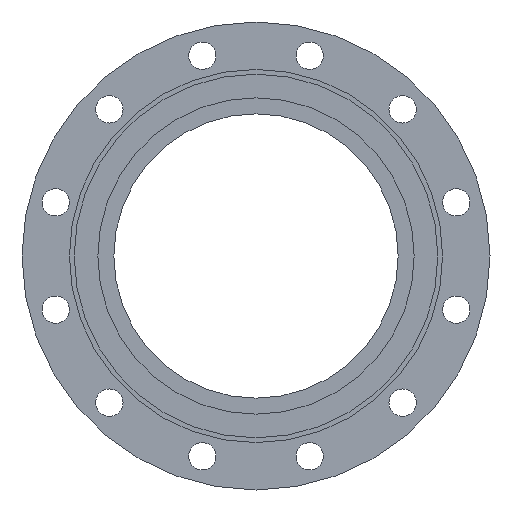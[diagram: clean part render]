
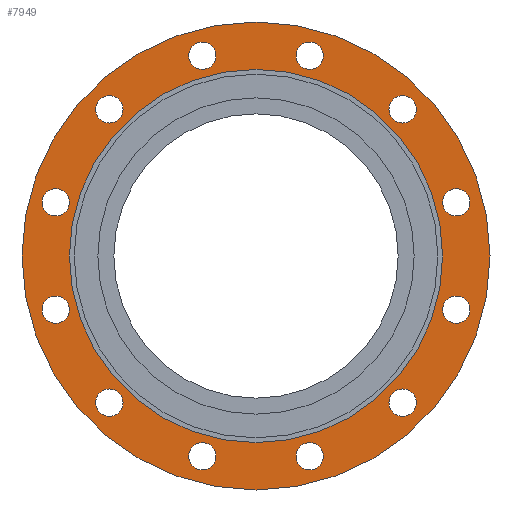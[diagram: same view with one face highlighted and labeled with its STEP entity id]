
A CAD part, left-side view. The second image highlights one B-rep face of the part: STEP entity #7949.
In plain terms, the highlighted planar face has unit normal (-1, 0, 0).
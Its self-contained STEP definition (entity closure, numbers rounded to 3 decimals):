
#7949=ADVANCED_FACE('',(#14298,#14300,#14302,#14304,#14306,#14308,#14310,#14312,
#14314,#14316,#14318,#14320,#14322,#14324),#14326,.T.);
#14298=FACE_BOUND('',#14299,.T.);
#14299=EDGE_LOOP('',(#19544,#19545));
#14300=FACE_BOUND('',#14301,.T.);
#14301=EDGE_LOOP('',(#19546));
#14302=FACE_BOUND('',#14303,.T.);
#14303=EDGE_LOOP('',(#19547));
#14304=FACE_BOUND('',#14305,.T.);
#14305=EDGE_LOOP('',(#19548));
#14306=FACE_BOUND('',#14307,.T.);
#14307=EDGE_LOOP('',(#19549));
#14308=FACE_BOUND('',#14309,.T.);
#14309=EDGE_LOOP('',(#19550));
#14310=FACE_BOUND('',#14311,.T.);
#14311=EDGE_LOOP('',(#19551));
#14312=FACE_BOUND('',#14313,.T.);
#14313=EDGE_LOOP('',(#19552));
#14314=FACE_BOUND('',#14315,.T.);
#14315=EDGE_LOOP('',(#19553));
#14316=FACE_BOUND('',#14317,.T.);
#14317=EDGE_LOOP('',(#19554));
#14318=FACE_BOUND('',#14319,.T.);
#14319=EDGE_LOOP('',(#19555));
#14320=FACE_BOUND('',#14321,.T.);
#14321=EDGE_LOOP('',(#19556));
#14322=FACE_BOUND('',#14323,.T.);
#14323=EDGE_LOOP('',(#19557));
#14324=FACE_BOUND('',#14325,.T.);
#14325=EDGE_LOOP('',(#19558,#19559));
#14326=PLANE('',#14327);
#14327=AXIS2_PLACEMENT_3D('',#14328,#14329,#14330);
#14328=CARTESIAN_POINT('',(7855.92,4339.992,0.));
#14329=DIRECTION('',(-1.,0.,0.));
#14330=DIRECTION('',(0.,0.,1.));
#19544=ORIENTED_EDGE('',*,*,#22184,.F.);
#19545=ORIENTED_EDGE('',*,*,#22185,.F.);
#19546=ORIENTED_EDGE('',*,*,#22118,.T.);
#19547=ORIENTED_EDGE('',*,*,#22120,.T.);
#19548=ORIENTED_EDGE('',*,*,#22122,.T.);
#19549=ORIENTED_EDGE('',*,*,#22124,.T.);
#19550=ORIENTED_EDGE('',*,*,#22126,.T.);
#19551=ORIENTED_EDGE('',*,*,#22128,.T.);
#19552=ORIENTED_EDGE('',*,*,#22130,.T.);
#19553=ORIENTED_EDGE('',*,*,#22132,.T.);
#19554=ORIENTED_EDGE('',*,*,#22134,.T.);
#19555=ORIENTED_EDGE('',*,*,#22136,.T.);
#19556=ORIENTED_EDGE('',*,*,#22138,.T.);
#19557=ORIENTED_EDGE('',*,*,#22116,.T.);
#19558=ORIENTED_EDGE('',*,*,#22183,.T.);
#19559=ORIENTED_EDGE('',*,*,#22182,.T.);
#22116=EDGE_CURVE('',#26309,#26309,#26310,.T.);
#22118=EDGE_CURVE('',#26313,#26313,#26314,.T.);
#22120=EDGE_CURVE('',#26317,#26317,#26318,.T.);
#22122=EDGE_CURVE('',#26321,#26321,#26322,.T.);
#22124=EDGE_CURVE('',#26325,#26325,#26326,.T.);
#22126=EDGE_CURVE('',#26329,#26329,#26330,.T.);
#22128=EDGE_CURVE('',#26333,#26333,#26334,.T.);
#22130=EDGE_CURVE('',#26337,#26337,#26338,.T.);
#22132=EDGE_CURVE('',#26341,#26341,#26342,.T.);
#22134=EDGE_CURVE('',#26345,#26345,#26346,.T.);
#22136=EDGE_CURVE('',#26349,#26349,#26350,.T.);
#22138=EDGE_CURVE('',#26353,#26353,#26354,.T.);
#22182=EDGE_CURVE('',#26441,#26442,#26443,.T.);
#22183=EDGE_CURVE('',#26442,#26441,#26444,.T.);
#22184=EDGE_CURVE('',#26445,#26446,#26447,.T.);
#22185=EDGE_CURVE('',#26446,#26445,#26448,.T.);
#26309=VERTEX_POINT('',#35521);
#26310=CIRCLE('',#35522,11.5);
#26313=VERTEX_POINT('',#35531);
#26314=CIRCLE('',#35532,11.5);
#26317=VERTEX_POINT('',#35541);
#26318=CIRCLE('',#35542,11.5);
#26321=VERTEX_POINT('',#35551);
#26322=CIRCLE('',#35552,11.5);
#26325=VERTEX_POINT('',#35561);
#26326=CIRCLE('',#35562,11.5);
#26329=VERTEX_POINT('',#35571);
#26330=CIRCLE('',#35572,11.5);
#26333=VERTEX_POINT('',#35581);
#26334=CIRCLE('',#35582,11.5);
#26337=VERTEX_POINT('',#35591);
#26338=CIRCLE('',#35592,11.5);
#26341=VERTEX_POINT('',#35601);
#26342=CIRCLE('',#35602,11.5);
#26345=VERTEX_POINT('',#35611);
#26346=CIRCLE('',#35612,11.5);
#26349=VERTEX_POINT('',#35621);
#26350=CIRCLE('',#35622,11.5);
#26353=VERTEX_POINT('',#35631);
#26354=CIRCLE('',#35632,11.5);
#26441=VERTEX_POINT('',#35851);
#26442=VERTEX_POINT('',#35852);
#26443=CIRCLE('',#35853,157.5);
#26444=CIRCLE('',#35857,157.5);
#26445=VERTEX_POINT('',#35861);
#26446=VERTEX_POINT('',#35862);
#26447=CIRCLE('',#35863,197.5);
#26448=CIRCLE('',#35867,197.5);
#35521=CARTESIAN_POINT('',(7855.92,4300.029,-45.293));
#35522=AXIS2_PLACEMENT_3D('',#35523,#35524,#35525);
#35523=CARTESIAN_POINT('',(7855.92,4311.529,-45.293));
#35524=DIRECTION('',(1.,0.,0.));
#35525=DIRECTION('',(0.,-1.,0.));
#35531=CARTESIAN_POINT('',(7855.92,4254.736,123.744));
#35532=AXIS2_PLACEMENT_3D('',#35533,#35534,#35535);
#35533=CARTESIAN_POINT('',(7855.92,4266.236,123.744));
#35534=DIRECTION('',(1.,0.,0.));
#35535=DIRECTION('',(0.,-1.,0.));
#35541=CARTESIAN_POINT('',(7855.92,4085.699,169.037));
#35542=AXIS2_PLACEMENT_3D('',#35543,#35544,#35545);
#35543=CARTESIAN_POINT('',(7855.92,4097.199,169.037));
#35544=DIRECTION('',(1.,0.,0.));
#35545=DIRECTION('',(0.,-1.,0.));
#35551=CARTESIAN_POINT('',(7855.92,3961.955,45.293));
#35552=AXIS2_PLACEMENT_3D('',#35553,#35554,#35555);
#35553=CARTESIAN_POINT('',(7855.92,3973.455,45.293));
#35554=DIRECTION('',(1.,0.,0.));
#35555=DIRECTION('',(0.,-1.,0.));
#35561=CARTESIAN_POINT('',(7855.92,4007.248,-123.744));
#35562=AXIS2_PLACEMENT_3D('',#35563,#35564,#35565);
#35563=CARTESIAN_POINT('',(7855.92,4018.748,-123.744));
#35564=DIRECTION('',(1.,0.,0.));
#35565=DIRECTION('',(0.,-1.,0.));
#35571=CARTESIAN_POINT('',(7855.92,4176.285,-169.037));
#35572=AXIS2_PLACEMENT_3D('',#35573,#35574,#35575);
#35573=CARTESIAN_POINT('',(7855.92,4187.785,-169.037));
#35574=DIRECTION('',(1.,0.,0.));
#35575=DIRECTION('',(0.,-1.,0.));
#35581=CARTESIAN_POINT('',(7855.92,4085.699,-169.037));
#35582=AXIS2_PLACEMENT_3D('',#35583,#35584,#35585);
#35583=CARTESIAN_POINT('',(7855.92,4097.199,-169.037));
#35584=DIRECTION('',(1.,0.,0.));
#35585=DIRECTION('',(0.,-1.,0.));
#35591=CARTESIAN_POINT('',(7855.92,3961.955,-45.293));
#35592=AXIS2_PLACEMENT_3D('',#35593,#35594,#35595);
#35593=CARTESIAN_POINT('',(7855.92,3973.455,-45.293));
#35594=DIRECTION('',(1.,0.,0.));
#35595=DIRECTION('',(0.,-1.,0.));
#35601=CARTESIAN_POINT('',(7855.92,4007.248,123.744));
#35602=AXIS2_PLACEMENT_3D('',#35603,#35604,#35605);
#35603=CARTESIAN_POINT('',(7855.92,4018.748,123.744));
#35604=DIRECTION('',(1.,0.,0.));
#35605=DIRECTION('',(0.,-1.,0.));
#35611=CARTESIAN_POINT('',(7855.92,4176.285,169.037));
#35612=AXIS2_PLACEMENT_3D('',#35613,#35614,#35615);
#35613=CARTESIAN_POINT('',(7855.92,4187.785,169.037));
#35614=DIRECTION('',(1.,0.,0.));
#35615=DIRECTION('',(0.,-1.,0.));
#35621=CARTESIAN_POINT('',(7855.92,4300.029,45.293));
#35622=AXIS2_PLACEMENT_3D('',#35623,#35624,#35625);
#35623=CARTESIAN_POINT('',(7855.92,4311.529,45.293));
#35624=DIRECTION('',(1.,0.,0.));
#35625=DIRECTION('',(0.,-1.,0.));
#35631=CARTESIAN_POINT('',(7855.92,4254.736,-123.744));
#35632=AXIS2_PLACEMENT_3D('',#35633,#35634,#35635);
#35633=CARTESIAN_POINT('',(7855.92,4266.236,-123.744));
#35634=DIRECTION('',(1.,0.,0.));
#35635=DIRECTION('',(0.,-1.,0.));
#35851=CARTESIAN_POINT('',(7855.92,3984.992,0.));
#35852=CARTESIAN_POINT('',(7855.92,4299.992,0.));
#35853=AXIS2_PLACEMENT_3D('',#35854,#35855,#35856);
#35854=CARTESIAN_POINT('',(7855.92,4142.492,0.));
#35855=DIRECTION('',(1.,0.,0.));
#35856=DIRECTION('',(0.,-1.,0.));
#35857=AXIS2_PLACEMENT_3D('',#35858,#35859,#35860);
#35858=CARTESIAN_POINT('',(7855.92,4142.492,0.));
#35859=DIRECTION('',(1.,0.,0.));
#35860=DIRECTION('',(0.,1.,0.));
#35861=CARTESIAN_POINT('',(7855.92,3944.992,0.));
#35862=CARTESIAN_POINT('',(7855.92,4339.992,0.));
#35863=AXIS2_PLACEMENT_3D('',#35864,#35865,#35866);
#35864=CARTESIAN_POINT('',(7855.92,4142.492,0.));
#35865=DIRECTION('',(1.,0.,0.));
#35866=DIRECTION('',(0.,-1.,0.));
#35867=AXIS2_PLACEMENT_3D('',#35868,#35869,#35870);
#35868=CARTESIAN_POINT('',(7855.92,4142.492,0.));
#35869=DIRECTION('',(1.,0.,0.));
#35870=DIRECTION('',(0.,1.,0.));
